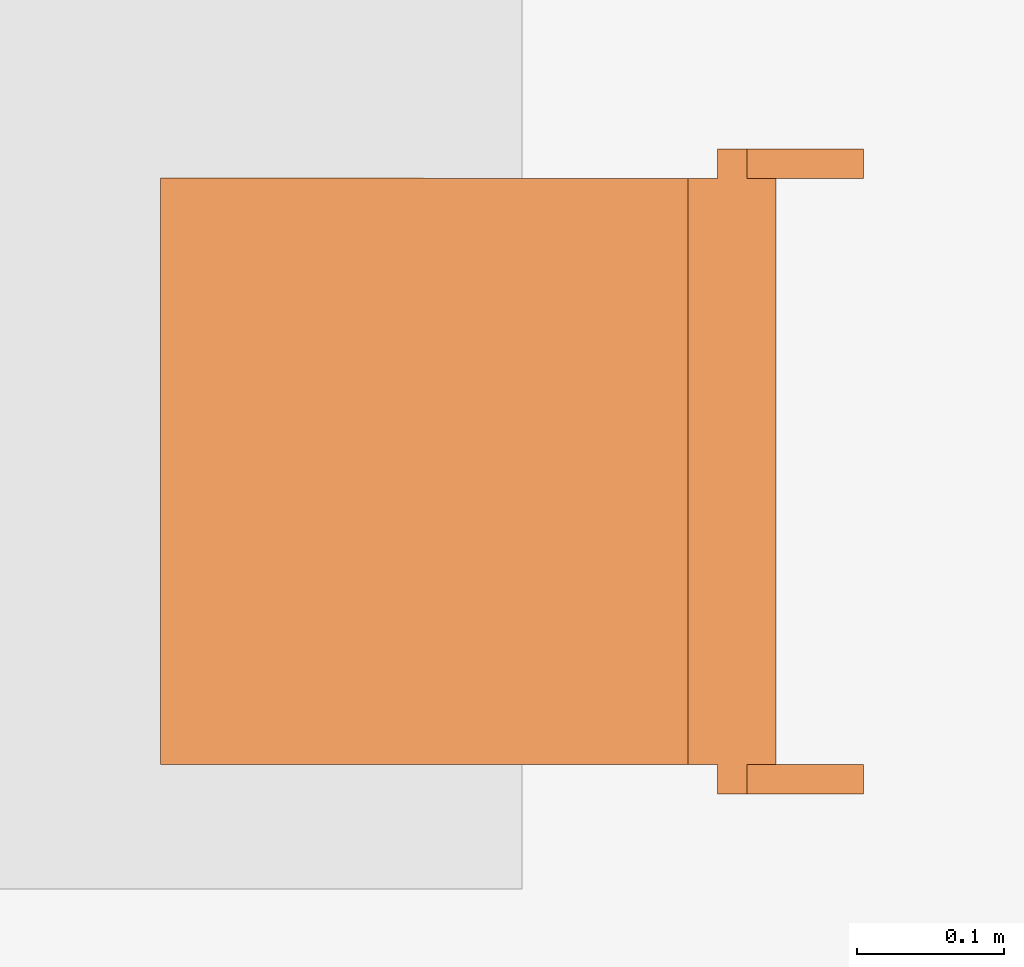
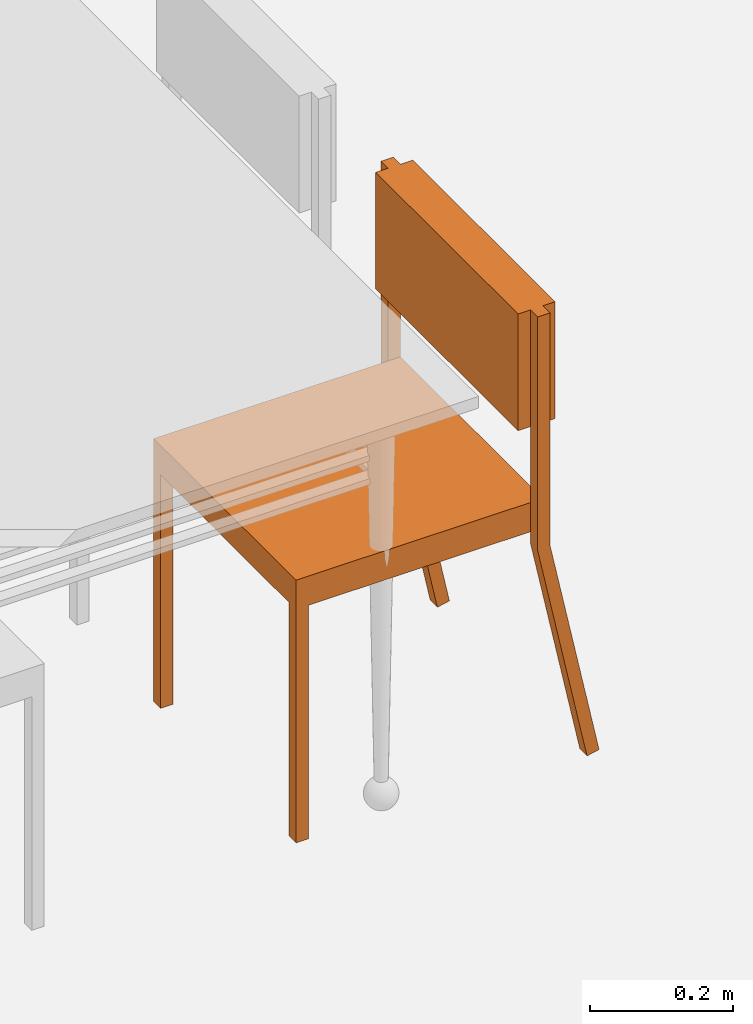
# One storey, part 146 of 164: 1 proxy.
"""IFC2X3 building model written with IfcOpenShell, lengths in millimetres."""

from ifc_helpers import new_model, entity, si_unit, converted_unit, derived_unit, money_unit, direction, frame, origin_with_axes, place, context, subcontext, project, spatial, faceted_brep, source, transform, mapped, type_object, element, save


model = new_model("IFC2X3")

# Units and contexts
model_context = context("Model", 3, precision=0.01, world=origin_with_axes(), true_north=direction((0.0, 1.0)))
body_context = subcontext(model_context, "Body", "Model", "MODEL_VIEW")
ifc_project = project(units=[si_unit("LENGTHUNIT", "METRE", prefix="MILLI"), si_unit("AREAUNIT", "SQUARE_METRE"), si_unit("VOLUMEUNIT", "CUBIC_METRE"), converted_unit("PLANEANGLEUNIT", "DEGREE", entity("IfcPlaneAngleMeasure", 0.0174532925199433), si_unit("PLANEANGLEUNIT", "RADIAN"), dimensions=[0, 0, 0, 0, 0, 0, 0]), money_unit("USD"), converted_unit("TIMEUNIT", "Year", entity("IfcTimeMeasure", 31557600.0), si_unit("TIMEUNIT", "SECOND"), dimensions=[0, 0, 1, 0, 0, 0, 0]), si_unit("MASSUNIT", "GRAM", prefix="KILO"), si_unit("THERMODYNAMICTEMPERATUREUNIT", "DEGREE_CELSIUS"), si_unit("LUMINOUSINTENSITYUNIT", "LUMEN"), si_unit("ENERGYUNIT", "JOULE", prefix="MEGA"), derived_unit("THERMALCONDUCTANCEUNIT", [(si_unit("POWERUNIT", "WATT"), 1), (si_unit("LENGTHUNIT", "METRE"), -1), (si_unit("THERMODYNAMICTEMPERATUREUNIT", "KELVIN"), -1)]), derived_unit("SPECIFICHEATCAPACITYUNIT", [(si_unit("ENERGYUNIT", "JOULE"), 1), (si_unit("MASSUNIT", "GRAM", prefix="KILO"), -1), (si_unit("THERMODYNAMICTEMPERATUREUNIT", "KELVIN"), -1)]), derived_unit("MASSDENSITYUNIT", [(si_unit("MASSUNIT", "GRAM", prefix="KILO"), 1), (si_unit("VOLUMEUNIT", "CUBIC_METRE"), -1)])], contexts=[model_context])

# Site, building, storey
site_placement = place(None, origin_with_axes())
site = spatial("IfcSite", under=ifc_project, at=site_placement, Name="Site", CompositionType="ELEMENT")
building_placement = place(site_placement, origin_with_axes())
building = spatial("IfcBuilding", under=site, at=building_placement, Name="Bâtiment", CompositionType="ELEMENT")
storey_placement = place(building_placement, frame((0.0, 0.0, 5750.0), z_axis=(0.0, 0.0, 1.0), x_axis=(1.0, 0.0, 0.0)))
storey = spatial("IfcBuildingStorey", under=building, at=storey_placement, Name="Etage1", CompositionType="ELEMENT", Elevation=5750.0)

# Proxy
building_element_proxy_type = type_object("IfcBuildingElementProxyType", PredefinedType="NOTDEFINED")
shared_shape = source(origin_with_axes(), body_context, "Body", "Brep", [
    faceted_brep([(39.99999978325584, 0.0, 0.0), (19.99999989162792, 0.0, 0.0), (19.99999989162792, 19.99999936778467, 0.0), (39.99999978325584, 19.99999936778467, 0.0), (39.99999978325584, 0.0, 400.0), (19.99999989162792, 0.0, 400.0), (19.99999989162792, 19.99999936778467, 400.0), (39.99999978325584, 19.99999936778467, 400.0)], [[[0, 1, 2, 3]], [[1, 0, 4, 5]], [[2, 1, 5, 6]], [[3, 2, 6, 7]], [[0, 3, 7, 4]], [[5, 4, 7, 6]]]),
    faceted_brep([(419.9999977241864, 0.0, 0.0), (399.9999978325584, 0.0, 0.0), (399.9999978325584, 19.99999936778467, 0.0), (419.9999977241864, 19.99999936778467, 0.0), (419.9999977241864, 0.0, 400.0), (399.9999978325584, 0.0, 400.0), (399.9999978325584, 19.99999936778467, 400.0), (419.9999977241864, 19.99999936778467, 400.0)], [[[0, 1, 2, 3]], [[1, 0, 4, 5]], [[2, 1, 5, 6]], [[3, 2, 6, 7]], [[0, 3, 7, 4]], [[5, 4, 7, 6]]]),
    faceted_brep([(399.9999978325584, 0.0, 400.0000000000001), (39.99999978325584, 0.0, 400.0000000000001), (39.99999978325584, 19.99999936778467, 400.0000000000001), (399.9999978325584, 19.99999936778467, 400.0000000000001), (399.9999978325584, 0.0, 420.0000000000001), (39.99999978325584, 0.0, 420.0000000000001), (39.99999978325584, 19.99999936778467, 420.0000000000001), (399.9999978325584, 19.99999936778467, 420.0000000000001)], [[[0, 1, 2, 3]], [[1, 0, 4, 5]], [[2, 1, 5, 6]], [[3, 2, 6, 7]], [[0, 3, 7, 4]], [[5, 4, 7, 6]]]),
    faceted_brep([(39.99999978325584, 19.99999936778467, 400.0000000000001), (19.99999989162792, 19.99999936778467, 400.0000000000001), (19.99999989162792, 379.9999879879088, 400.0000000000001), (39.99999978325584, 379.9999879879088, 400.0000000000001), (39.99999978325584, 19.99999936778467, 420.0000000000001), (19.99999989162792, 19.99999936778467, 420.0000000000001), (19.99999989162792, 379.9999879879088, 420.0000000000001), (39.99999978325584, 379.9999879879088, 420.0000000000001)], [[[0, 1, 2, 3]], [[1, 0, 4, 5]], [[2, 1, 5, 6]], [[3, 2, 6, 7]], [[0, 3, 7, 4]], [[5, 4, 7, 6]]]),
    faceted_brep([(419.9999977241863, 379.9999879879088, 400.0000000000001), (19.99999989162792, 379.9999879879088, 400.0000000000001), (19.99999989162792, 399.9999873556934, 400.0000000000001), (419.9999977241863, 399.9999873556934, 400.0000000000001), (419.9999977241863, 379.9999879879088, 420.0000000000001), (19.99999989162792, 379.9999879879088, 420.0000000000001), (19.99999989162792, 399.9999873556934, 420.0000000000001), (419.9999977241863, 399.9999873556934, 420.0000000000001)], [[[0, 1, 2, 3]], [[1, 0, 4, 5]], [[2, 1, 5, 6]], [[3, 2, 6, 7]], [[0, 3, 7, 4]], [[5, 4, 7, 6]]]),
    faceted_brep([(419.9999977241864, 19.99999936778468, 400.0000000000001), (399.9999978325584, 19.99999936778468, 400.0000000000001), (399.9999978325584, 379.9999879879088, 400.0000000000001), (419.9999977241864, 379.9999879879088, 400.0000000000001), (419.9999977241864, 19.99999936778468, 420.0000000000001), (399.9999978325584, 19.99999936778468, 420.0000000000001), (399.9999978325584, 379.9999879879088, 420.0000000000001), (419.9999977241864, 379.9999879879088, 420.0000000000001)], [[[0, 1, 2, 3]], [[1, 0, 4, 5]], [[2, 1, 5, 6]], [[3, 2, 6, 7]], [[0, 3, 7, 4]], [[5, 4, 7, 6]]]),
    faceted_brep([(419.9999977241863, 0.0, 400.0), (19.99999989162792, 0.0, 400.0), (19.99999989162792, 399.9999873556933, 400.0), (419.9999977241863, 399.9999873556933, 400.0), (419.9999977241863, 0.0, 450.0), (19.99999989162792, 0.0, 450.0), (19.99999989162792, 399.9999873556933, 450.0), (419.9999977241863, 399.9999873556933, 450.0)], [[[0, 1, 2, 3]], [[1, 0, 4, 5]], [[2, 1, 5, 6]], [[3, 2, 6, 7]], [[0, 3, 7, 4]], [[5, 4, 7, 6]]]),
    faceted_brep([(19.99999989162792, 379.9999879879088, 380.0), (0.0, 379.9999879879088, 380.0), (0.0, 399.9999873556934, 380.0), (19.99999989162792, 399.9999873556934, 380.0), (19.99999989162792, 379.9999879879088, 780.0), (0.0, 379.9999879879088, 780.0), (0.0, 399.9999873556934, 780.0), (19.99999989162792, 399.9999873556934, 780.0)], [[[0, 1, 2, 3]], [[1, 0, 4, 5]], [[2, 1, 5, 6]], [[3, 2, 6, 7]], [[0, 3, 7, 4]], [[5, 4, 7, 6]]]),
    faceted_brep([(439.9999976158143, 379.9999879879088, 380.0), (419.9999977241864, 379.9999879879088, 380.0), (419.9999977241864, 399.9999873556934, 380.0), (439.9999976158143, 399.9999873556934, 380.0), (439.9999976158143, 379.9999879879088, 780.0), (419.9999977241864, 379.9999879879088, 780.0), (419.9999977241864, 399.9999873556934, 780.0), (439.9999976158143, 399.9999873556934, 780.0)], [[[0, 1, 2, 3]], [[1, 0, 4, 5]], [[2, 1, 5, 6]], [[3, 2, 6, 7]], [[0, 3, 7, 4]], [[5, 4, 7, 6]]]),
    faceted_brep([(419.9999977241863, 359.999988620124, 580.0000000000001), (19.99999989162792, 359.999988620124, 580.0000000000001), (19.99999989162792, 419.9999867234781, 580.0000000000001), (419.9999977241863, 419.9999867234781, 580.0000000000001), (419.9999977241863, 359.999988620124, 780.0), (19.99999989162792, 359.999988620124, 780.0), (19.99999989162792, 419.9999867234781, 780.0), (419.9999977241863, 419.9999867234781, 780.0)], [[[0, 1, 2, 3]], [[1, 0, 4, 5]], [[2, 1, 5, 6]], [[3, 2, 6, 7]], [[0, 3, 7, 4]], [[5, 4, 7, 6]]]),
    faceted_brep([(19.99999989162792, 459.9999854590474, 0.0), (0.0, 459.9999854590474, 0.0), (0.0, 479.5709559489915, 4.120326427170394), (19.99999989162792, 479.5709559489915, 4.120326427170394), (19.99999989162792, 379.997669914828, 379.999760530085), (0.0, 379.997669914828, 379.999760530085), (0.0, 399.5686404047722, 384.1200869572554), (19.99999989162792, 399.5686404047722, 384.1200869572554)], [[[0, 1, 2, 3]], [[1, 0, 4, 5]], [[2, 1, 5, 6]], [[3, 2, 6, 7]], [[0, 3, 7, 4]], [[5, 4, 7, 6]]]),
    faceted_brep([(439.9999976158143, 459.9999854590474, 0.0), (419.9999977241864, 459.9999854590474, 0.0), (419.9999977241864, 479.5709559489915, 4.120326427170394), (439.9999976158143, 479.5709559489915, 4.120326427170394), (439.9999976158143, 379.997669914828, 379.999760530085), (419.9999977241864, 379.997669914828, 379.999760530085), (419.9999977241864, 399.5686404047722, 384.1200869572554), (439.9999976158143, 399.5686404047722, 384.1200869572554)], [[[0, 1, 2, 3]], [[1, 0, 4, 5]], [[2, 1, 5, 6]], [[3, 2, 6, 7]], [[0, 3, 7, 4]], [[5, 4, 7, 6]]]),
])
proxy_placement = place(storey_placement, frame((2230042.555903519, -639285.6513884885, 0.0), z_axis=(0.0, 0.0, 1.0), x_axis=(-8.510155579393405e-05, -0.9999999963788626, 0.0)))
element("IfcBuildingElementProxy", 1, at=proxy_placement, inside=storey, type_object=building_element_proxy_type, Name="Obj.-027", context=body_context, shape_type="MappedRepresentation", body=[
    mapped(shared_shape, transform((0.0, 0.0, 0.0))),
])

save(model, "model.ifc")
